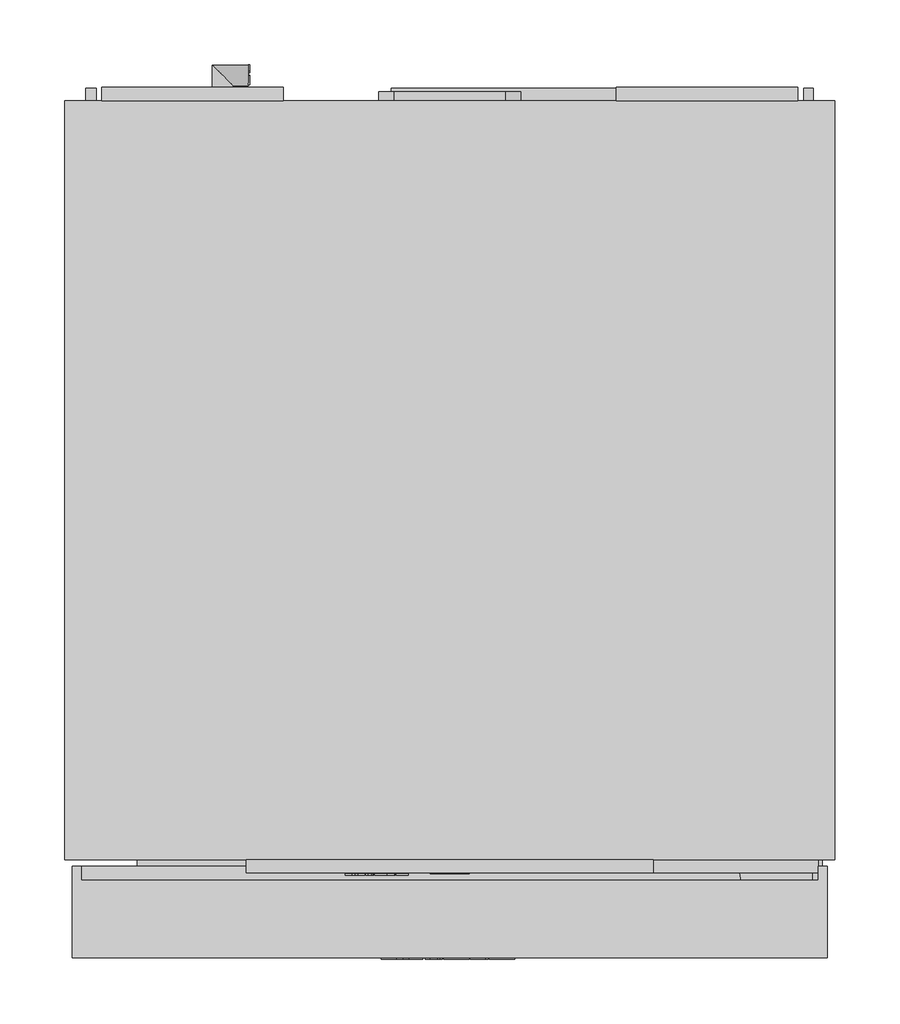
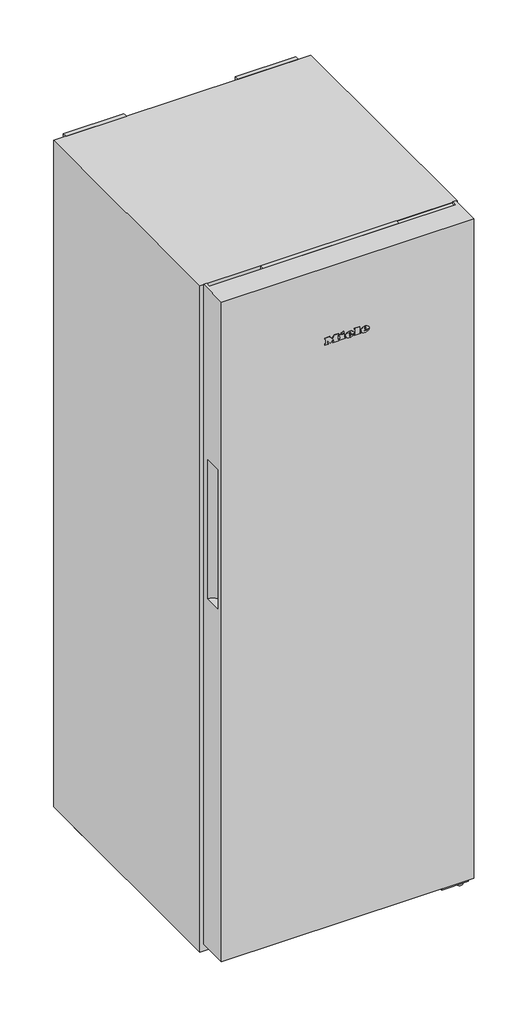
# Not in any storey: 1 proxy.
"""IFC4 building model written with IfcOpenShell, lengths in millimetres."""

from ifc_helpers import new_model, si_unit, origin, place, context, project, spatial, transform, mapped, element, save
from components import specialty_equipment_ef7f8294

model = new_model("IFC4")

# Units and contexts
model_context = context("Model", 3, world=origin())
ifc_project = project(units=[si_unit("LENGTHUNIT", "METRE", prefix="MILLI")], contexts=[model_context])

# Site, building
site = spatial("IfcSite", under=ifc_project)
building = spatial("IfcBuilding", under=site)

# Proxy
placement = place(None, origin())
specialty_equipment_shape = specialty_equipment_ef7f8294(model_context)
element("IfcBuildingElementProxy", 1, Name="12430260_EU1_FN4342D_WS : 37434244_EU1_12430260_FN4342D_WS", ObjectType="12430260_EU1_FN4342D_WS : 37434244_EU1_12430260_FN4342D_WS", at=placement, inside=building, context=model_context, shape_type="MappedRepresentation", body=[
    mapped(specialty_equipment_shape, transform((0.0, 0.0, 0.0), x_axis=(1.0, 0.0, 0.0), y_axis=(0.0, 1.0, 0.0), z_axis=(0.0, 0.0, 1.0))),
])

save(model, "model.ifc")
